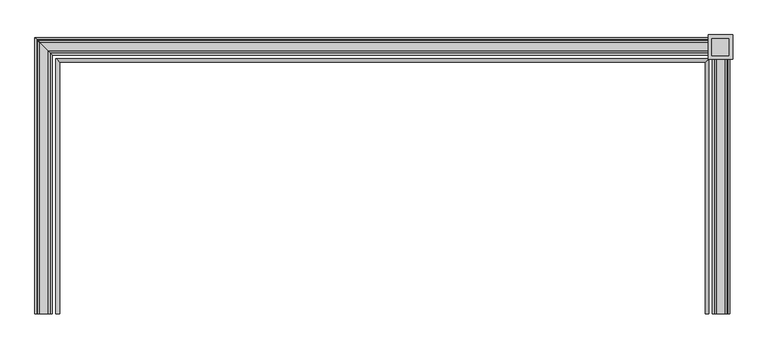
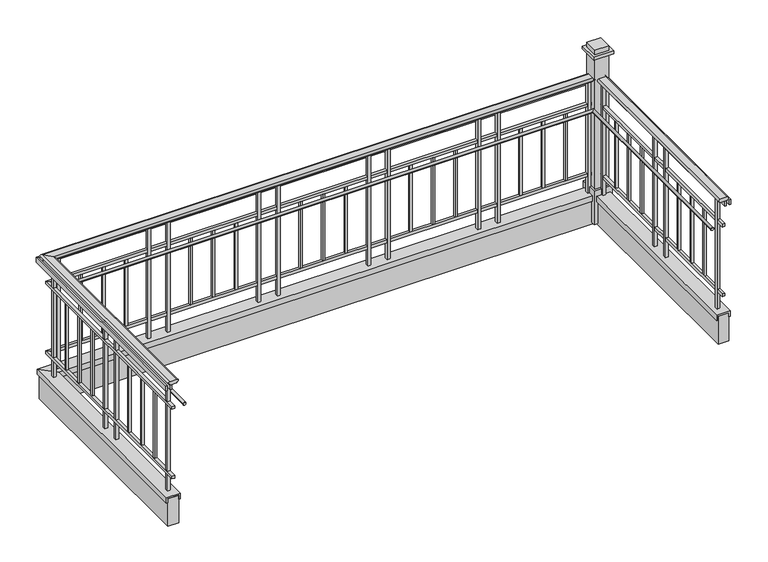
"""IFC4 building model written with IfcOpenShell, lengths in millimetres: railing geometry, Deco Type."""

import ifcopenshell
import ifcopenshell.guid

model = None  # the IFC model being written
_history = None  # IfcOwnerHistory: only IFC2X3 demands one
_inside = {}  # id of a spatial element -> (the spatial element, [elements in it])
_under = {}  # id of a project, library or spatial element -> (it, [spatial elements below it])
_declared = {}  # id of a project -> (the project, [libraries it declares])
_typed = {}  # id of a type object -> (the type object, [elements of that type])
_made_of = {}  # id of a material, layer set ... -> (it, [elements and type objects made of it])


def new_model(schema):
    """Start an empty IFC model of exactly this schema.

    Asked for "IFC4X3", IfcOpenShell would pick the latest addendum, in which some entities
    have other attributes; the version numbers below select the first issue.
    IFC2X3 requires an IfcOwnerHistory on every rooted entity: one is made here for all.
    """
    global model, _history
    if schema == "IFC4X3":
        model = ifcopenshell.file(schema_version=(4, 3, 0, 0))
    else:
        model = ifcopenshell.file(schema=schema)
    _inside.clear()
    _under.clear()
    _declared.clear()
    _typed.clear()
    _made_of.clear()
    _history = None
    if model.schema == "IFC2X3":
        org = make("IfcOrganization", Name="unknown")
        user = make(
            "IfcPersonAndOrganization",
            ThePerson=make("IfcPerson", FamilyName="unknown"),
            TheOrganization=org,
        )
        app = make(
            "IfcApplication",
            ApplicationDeveloper=org,
            Version="unknown",
            ApplicationFullName="unknown",
            ApplicationIdentifier="unknown",
        )
        _history = make(
            "IfcOwnerHistory",
            OwningUser=user,
            OwningApplication=app,
            ChangeAction="ADDED",
            CreationDate=0,
        )
    return model


def make(cls, **values):
    """One entity of the class cls with the attributes given. An attribute that is None is left unset."""
    return model.create_entity(
        cls, **{name: value for name, value in values.items() if value is not None}
    )


def rooted(cls, **values):
    """An entity with a GlobalId (a new one), such as an element, a storey or a relation."""
    return make(cls, GlobalId=ifcopenshell.guid.new(), OwnerHistory=_history, **values)


def si_unit(unit_type, name, prefix=None):
    """IfcSIUnit, for example si_unit("LENGTHUNIT", "METRE", prefix="MILLI")."""
    return make("IfcSIUnit", UnitType=unit_type, Prefix=prefix, Name=name)


def assignment(units):
    """IfcUnitAssignment: the units of a project."""
    return None if units is None else make("IfcUnitAssignment", Units=units)


def point(xyz):
    """IfcCartesianPoint."""
    return None if xyz is None else make("IfcCartesianPoint", Coordinates=xyz)


def direction(xyz):
    """IfcDirection."""
    return None if xyz is None else make("IfcDirection", DirectionRatios=xyz)


def frame(location, z_axis=None, x_axis=None):
    """IfcAxis2Placement3D, a coordinate frame: its origin and axes. An axis left out is left unset."""
    return make(
        "IfcAxis2Placement3D",
        Location=point(location),
        Axis=direction(z_axis),
        RefDirection=direction(x_axis),
    )


def origin():
    """The frame at (0, 0, 0) with its axes left unset."""
    return frame((0.0, 0.0, 0.0))


def place(relative_to, where):
    """IfcLocalPlacement: puts the frame where relative to a parent placement (None: the world)."""
    return make(
        "IfcLocalPlacement", PlacementRelTo=relative_to, RelativePlacement=where
    )


def context(
    kind, dimensions, precision=None, world=None, true_north=None, identifier=None
):
    """IfcGeometricRepresentationContext, for example the 3D "Model" context."""
    return make(
        "IfcGeometricRepresentationContext",
        ContextIdentifier=identifier,
        ContextType=kind,
        CoordinateSpaceDimension=dimensions,
        Precision=precision,
        WorldCoordinateSystem=world,
        TrueNorth=true_north,
    )


def project(units=None, contexts=None):
    """IfcProject with its units and contexts."""
    return rooted(
        "IfcProject",
        Name="project",
        RepresentationContexts=contexts,
        UnitsInContext=assignment(units),
    )


def spatial(cls, under=None, at=None, **own):
    """A site, building, storey or space (cls), placed at a placement, below another one or the project."""
    s = rooted(cls, ObjectPlacement=at, **own)
    if under is not None:
        _under.setdefault(under.id(), (under, []))[1].append(s)
    return s


def polyline(points):
    """IfcPolyline through the points."""
    return make("IfcPolyline", Points=[point(p) for p in points])


def circle_curve(where, radius):
    """IfcCircle in the frame where."""
    return make("IfcCircle", Position=where, Radius=radius)


def ellipse_curve(where, semi_axis1, semi_axis2):
    """IfcEllipse in the frame where."""
    return make(
        "IfcEllipse", Position=where, SemiAxis1=semi_axis1, SemiAxis2=semi_axis2
    )


def outline(outer, holes=None, kind="AREA"):
    """IfcArbitraryClosedProfileDef: a profile drawn as a closed curve; with holes, ...WithVoids."""
    if holes is None:
        return make("IfcArbitraryClosedProfileDef", ProfileType=kind, OuterCurve=outer)
    return make(
        "IfcArbitraryProfileDefWithVoids",
        ProfileType=kind,
        OuterCurve=outer,
        InnerCurves=holes,
    )


def extrude(swept, where, along, depth):
    """IfcExtrudedAreaSolid: the profile swept, set in the frame where, extruded along a direction by depth."""
    return make(
        "IfcExtrudedAreaSolid",
        SweptArea=swept,
        Position=where,
        ExtrudedDirection=direction(along),
        Depth=depth,
    )


def faces_of(points, faces, orient=None, outer=None):
    """IfcFace entities. A face is a list of loops; a loop is a list of indices into points, from 0.

    orient and outer hold one flag for each loop. By default every Orientation is true, the
    first loop of a face is its IfcFaceOuterBound and the others are IfcFaceBound.
    """
    made = []
    for i, loops in enumerate(faces):
        bounds = []
        for j, loop in enumerate(loops):
            is_outer = j == 0 if outer is None else outer[i][j]
            bounds.append(
                make(
                    "IfcFaceOuterBound" if is_outer else "IfcFaceBound",
                    Bound=make("IfcPolyLoop", Polygon=[points[k] for k in loop]),
                    Orientation=True if orient is None else orient[i][j],
                )
            )
        made.append(make("IfcFace", Bounds=bounds))
    return made


def faceted_brep(points, faces, orient=None, outer=None, voids=None):
    """IfcFacetedBrep: a solid bounded by flat faces; with voids (closed shells), ...WithVoids."""
    shared = [point(p) for p in points]
    hull = make("IfcClosedShell", CfsFaces=faces_of(shared, faces, orient, outer))
    if voids is None:
        return make("IfcFacetedBrep", Outer=hull)
    return make(
        "IfcFacetedBrepWithVoids",
        Outer=hull,
        Voids=[
            make(cls, CfsFaces=faces_of(shared, fs, o, b)) for cls, fs, o, b in voids
        ],
    )


def shape(context_of_items, identifier, shape_type, items):
    """IfcShapeRepresentation: the items that make up one representation, for example the "Body"."""
    return make(
        "IfcShapeRepresentation",
        ContextOfItems=context_of_items,
        RepresentationIdentifier=identifier,
        RepresentationType=shape_type,
        Items=items,
    )


def source(mapping_origin, context_of_items, identifier, shape_type, items):
    """IfcRepresentationMap: a shape defined once, which mapped items show again and again."""
    return make(
        "IfcRepresentationMap",
        MappingOrigin=mapping_origin,
        MappedRepresentation=shape(context_of_items, identifier, shape_type, items),
    )


def transform(
    local_origin,
    x_axis=None,
    y_axis=None,
    z_axis=None,
    scale=None,
    scale2=None,
    scale3=None,
    uniform=True,
):
    """IfcCartesianTransformationOperator3D, or its non-uniform kind. x_axis, y_axis, z_axis: its Axis1, 2, 3."""
    if uniform:
        return make(
            "IfcCartesianTransformationOperator3D",
            Axis1=direction(x_axis),
            Axis2=direction(y_axis),
            LocalOrigin=point(local_origin),
            Scale=scale,
            Axis3=direction(z_axis),
        )
    return make(
        "IfcCartesianTransformationOperator3DnonUniform",
        Axis1=direction(x_axis),
        Axis2=direction(y_axis),
        LocalOrigin=point(local_origin),
        Scale=scale,
        Axis3=direction(z_axis),
        Scale2=scale2,
        Scale3=scale3,
    )


def mapped(mapping_source, mapping_target):
    """IfcMappedItem: shows the shape of a source again, moved by a transform."""
    return make(
        "IfcMappedItem", MappingSource=mapping_source, MappingTarget=mapping_target
    )


def made_of(thing, what):
    """Note that an element or type object is made of a material, layer set ...; save() writes the relation."""
    if what is not None:
        _made_of.setdefault(what.id(), (what, []))[1].append(thing)
    return thing


def element(
    cls,
    number,
    at=None,
    inside=None,
    cuts=None,
    type_object=None,
    material=None,
    context=None,
    identifier="Body",
    shape_type=None,
    held_by="IfcProductDefinitionShape",
    body=None,
    shapes=None,
    **own,
):
    """One element of the class cls, such as IfcWall. Its Tag is "e" and its number.

    at: its placement. inside: the storey or other place that contains it. cuts: it is an
    opening in that element (IfcRelVoidsElement). A single representation is given by context,
    identifier, shape_type and body (its items); several are given by shapes. held_by: the class
    of the entity that holds the representations. save() writes the other relations.
    """
    e = rooted(cls, Tag="e%d" % number, ObjectPlacement=at, **own)
    if body is not None:
        shapes = [shape(context, identifier, shape_type, body)]
    if shapes is not None:
        e.Representation = make(held_by, Representations=shapes)
    if inside is not None:
        _inside.setdefault(inside.id(), (inside, []))[1].append(e)
    if cuts is not None:
        rooted(
            "IfcRelVoidsElement", RelatingBuildingElement=cuts, RelatedOpeningElement=e
        )
    if type_object is not None:
        _typed.setdefault(type_object.id(), (type_object, []))[1].append(e)
    return made_of(e, material)


def aggregate(whole, parts):
    """IfcRelAggregates: a whole, such as a stair, and the parts it consists of."""
    return rooted("IfcRelAggregates", RelatingObject=whole, RelatedObjects=parts)


def save(model, path):
    """Write the relations noted so far, then the file.

    IfcRelAggregates (storeys below a building ...), IfcRelContainedInSpatialStructure (elements
    in a storey), IfcRelDefinesByType, IfcRelAssociatesMaterial and IfcRelDeclares: one each for
    every whole, place, type object, material and project.
    """
    for whole, parts in _under.values():
        aggregate(whole, parts)
    for where, things in _inside.values():
        rooted(
            "IfcRelContainedInSpatialStructure",
            RelatedElements=things,
            RelatingStructure=where,
        )
    for kind, things in _typed.values():
        rooted("IfcRelDefinesByType", RelatedObjects=things, RelatingType=kind)
    for what, things in _made_of.values():
        rooted("IfcRelAssociatesMaterial", RelatedObjects=things, RelatingMaterial=what)
    for by, libraries in _declared.values():
        rooted("IfcRelDeclares", RelatingContext=by, RelatedDefinitions=libraries)
    model.write(path)


def plane_surface(at):
    """IfcPlane: the flat surface through the origin of the frame at, square to its z axis."""
    return make("IfcPlane", Position=at)


def cylinder_surface(at, radius):
    """IfcCylindricalSurface: all points at the distance radius from the z axis of the frame at."""
    return make("IfcCylindricalSurface", Position=at, Radius=radius)


def advanced_brep(points, edges, surfaces, faces):
    """IfcAdvancedBrep: a solid bounded by faces that lie on surfaces and meet in shared edges.

    An edge is (start, end): straight between two places in points (the first is 0);
    or (start, end, curve); or (start, end, curve, False) where it runs against its curve.
    A face is (place in surfaces, loops), or (place, loops, False) where it looks against
    its surface's normal. A loop lists edges by number (the first is 1), with a minus sign
    where the edge is run from its end to its start. The first loop is the outer one.
    """
    corners = [point(p) for p in points]
    vertices = [make("IfcVertexPoint", VertexGeometry=c) for c in corners]
    made = []
    for start, end, *more in edges:
        made.append(
            make(
                "IfcEdgeCurve",
                EdgeStart=vertices[start],
                EdgeEnd=vertices[end],
                EdgeGeometry=more[0] if more else make("IfcPolyline", Points=[corners[start], corners[end]]),
                SameSense=more[1] if len(more) > 1 else True,
            )
        )
    hull = []
    for where, loops, *sense in faces:
        bounds = []
        for j, loop in enumerate(loops):
            ring = [make("IfcOrientedEdge", EdgeElement=made[abs(k) - 1], Orientation=k > 0) for k in loop]
            bounds.append(
                make(
                    "IfcFaceOuterBound" if j == 0 else "IfcFaceBound",
                    Bound=make("IfcEdgeLoop", EdgeList=ring),
                    Orientation=True,
                )
            )
        hull.append(make("IfcAdvancedFace", Bounds=bounds, FaceSurface=surfaces[where], SameSense=sense[0] if sense else True))
    return make("IfcAdvancedBrep", Outer=make("IfcClosedShell", CfsFaces=hull))


def railing_526610e1(model_context):
    return source(origin(), model_context, "Body", "SolidModel", [
        advanced_brep(
        [(-11325.7002872, 11455.7088201, 7194.55), (-11389.0500398, 11455.7088201, 7194.55), (-11389.0500398, 11455.7088201, 7172.261629), (-11389.0500398, 11455.7088201, 7162.8), (-11325.7002872, 11455.7088201, 7162.8), (-11325.7002872, 11455.7088201, 7172.3248415), (-11325.7002872, 13298.9465675, 7172.3248415), (-11325.7002872, 13298.9465675, 7194.55), (-11325.7002872, 13298.9465675, 7162.8), (-11389.0500398, 13362.2963201, 7162.8), (-11389.0500398, 13362.2963201, 7172.261629), (-11389.0500398, 13362.2963201, 7194.55), (-6640.6872924, 13298.9465675, 7172.3248415), (-6640.6872924, 13298.9465675, 7194.55), (-6640.6872924, 13298.9465675, 7162.8), (-6577.3375398, 13362.2963201, 7162.8), (-6577.3375398, 13362.2963201, 7172.261629), (-6577.3375398, 13362.2963201, 7194.55), (-6640.6872924, 11455.7088201, 7194.55), (-6640.6872924, 11455.7088201, 7172.3248415), (-6640.6872924, 11455.7088201, 7162.8), (-6577.3375398, 11455.7088201, 7162.8), (-6577.3375398, 11455.7088201, 7172.261629), (-6577.3375398, 11455.7088201, 7194.55)],
        [
            (0, 1),
            (1, 2, circle_curve(frame((-11389.0500398, 11455.7088201, 7183.4058145), z_axis=(0.0, -1.0, 0.0), x_axis=(-1.0, 0.0, 0.0)), 11.1441855)),
            (2, 3),
            (3, 4),
            (4, 5),
            (5, 0, circle_curve(frame((-11325.7002872, 11455.7088201, 7183.4374207), z_axis=(0.0, -1.0, 0.0), x_axis=(-1.0, 0.0, 0.0)), 11.1125793)),
            (5, 6),
            (6, 7, ellipse_curve(frame((-11325.7002872, 13298.9465675, 7183.4374207), z_axis=(-0.7071067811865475, -0.7071067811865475, 0.0), x_axis=(0.7071067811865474, -0.7071067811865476, 0.0)), 15.7155603, 11.1125793)),
            (7, 0),
            (4, 8),
            (8, 6),
            (3, 9),
            (9, 8),
            (2, 10),
            (10, 9),
            (1, 11),
            (11, 10, ellipse_curve(frame((-11389.0500398, 13362.2963201, 7183.4058145), z_axis=(-0.7071067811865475, -0.7071067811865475, 0.0), x_axis=(0.7071067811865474, -0.7071067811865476, 0.0)), 15.7602583, 11.1441855)),
            (7, 11),
            (6, 12),
            (12, 13, ellipse_curve(frame((-6640.6872924, 13298.9465675, 7183.4374207), z_axis=(-0.7071067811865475, 0.7071067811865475, 0.0), x_axis=(-0.7071067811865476, -0.7071067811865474, 0.0)), 15.7155603, 11.1125793)),
            (13, 7),
            (8, 14),
            (14, 12),
            (9, 15),
            (15, 14),
            (10, 16),
            (16, 15),
            (11, 17),
            (17, 16, ellipse_curve(frame((-6577.3375398, 13362.2963201, 7183.4058145), z_axis=(-0.7071067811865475, 0.7071067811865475, 0.0), x_axis=(-0.7071067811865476, -0.7071067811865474, 0.0)), 15.7602583, 11.1441855)),
            (13, 17),
            (18, 19, circle_curve(frame((-6640.6872924, 11455.7088201, 7183.4374207), z_axis=(0.0, -1.0, 0.0), x_axis=(1.0, 0.0, 0.0)), 11.1125793)),
            (19, 20),
            (20, 21),
            (21, 22),
            (22, 23, circle_curve(frame((-6577.3375398, 11455.7088201, 7183.4058145), z_axis=(0.0, -1.0, 0.0), x_axis=(1.0, 0.0, 0.0)), 11.1441855)),
            (23, 18),
            (12, 19),
            (18, 13),
            (14, 20),
            (15, 21),
            (16, 22),
            (17, 23),
        ],
        [
            plane_surface(frame((-11357.3000398, 11455.7088201, 7162.8), z_axis=(0.0, -1.0, 0.0), x_axis=(0.0, 0.0, 1.0))),
            cylinder_surface(frame((-11325.7002872, 11455.7088201, 7183.4374207), z_axis=(0.0, -1.0, 0.0), x_axis=(-1.0, 0.0, 0.0)), 11.1125793),
            plane_surface(frame((-11325.7002872, 11455.7088201, 7162.8), z_axis=(1.0, 0.0, 0.0), x_axis=(0.0, 1.0, 0.0))),
            plane_surface(frame((-11389.0500398, 11455.7088201, 7162.8), z_axis=(0.0, 0.0, -1.0), x_axis=(0.0, 1.0, 0.0))),
            plane_surface(frame((-11389.0500398, 11455.7088201, 7172.261629), z_axis=(-1.0, 0.0, 0.0), x_axis=(0.0, 1.0, 0.0))),
            cylinder_surface(frame((-11389.0500398, 11455.7088201, 7183.4058145), z_axis=(0.0, -1.0, 0.0), x_axis=(-1.0, 0.0, 0.0)), 11.1441855),
            plane_surface(frame((-11325.7002872, 11455.7088201, 7194.55), z_axis=(0.0, 0.0, 1.0), x_axis=(0.0, 1.0, 0.0))),
            cylinder_surface(frame((-11357.3000398, 13298.9465675, 7183.4374207), z_axis=(-1.0, 0.0, 0.0), x_axis=(0.0, 1.0, 0.0)), 11.1125793),
            plane_surface(frame((-11325.7002872, 13298.9465675, 7162.8), z_axis=(0.0, -1.0, 0.0), x_axis=(1.0, 0.0, 0.0))),
            plane_surface(frame((-11389.0500398, 13362.2963201, 7162.8), z_axis=(0.0, 0.0, -1.0), x_axis=(1.0, 0.0, 0.0))),
            plane_surface(frame((-11389.0500398, 13362.2963201, 7172.261629), z_axis=(0.0, 1.0, 0.0), x_axis=(1.0, 0.0, 0.0))),
            cylinder_surface(frame((-11357.3000398, 13362.2963201, 7183.4058145), z_axis=(-1.0, 0.0, 0.0), x_axis=(0.0, 1.0, 0.0)), 11.1441855),
            plane_surface(frame((-11325.7002872, 13298.9465675, 7194.55), z_axis=(0.0, 0.0, 1.0), x_axis=(1.0, 0.0, 0.0))),
            plane_surface(frame((-6609.0875398, 11455.7088201, 7162.8), z_axis=(0.0, -1.0, 0.0), x_axis=(0.0, 0.0, -1.0))),
            cylinder_surface(frame((-6640.6872924, 13330.5463201, 7183.4374207), z_axis=(0.0, 1.0, 0.0), x_axis=(1.0, 0.0, 0.0)), 11.1125793),
            plane_surface(frame((-6640.6872924, 13298.9465675, 7162.8), z_axis=(-1.0, 0.0, 0.0), x_axis=(0.0, -1.0, 0.0))),
            plane_surface(frame((-6577.3375398, 13362.2963201, 7162.8), z_axis=(0.0, 0.0, -1.0), x_axis=(0.0, -1.0, 0.0))),
            plane_surface(frame((-6577.3375398, 13362.2963201, 7172.261629), z_axis=(1.0, 0.0, 0.0), x_axis=(0.0, -1.0, 0.0))),
            cylinder_surface(frame((-6577.3375398, 13330.5463201, 7183.4058145), z_axis=(0.0, 1.0, 0.0), x_axis=(1.0, 0.0, 0.0)), 11.1441855),
            plane_surface(frame((-6640.6872924, 13298.9465675, 7194.55), z_axis=(0.0, 0.0, 1.0), x_axis=(0.0, -1.0, 0.0))),
        ],
        [
            (0, [[1, 2, 3, 4, 5, 6]]),
            (1, [[-6, 7, 8, 9]]),
            (2, [[-5, 10, 11, -7]]),
            (3, [[-4, 12, 13, -10]]),
            (4, [[-3, 14, 15, -12]]),
            (5, [[-2, 16, 17, -14]]),
            (6, [[-1, -9, 18, -16]]),
            (7, [[-8, 19, 20, 21]]),
            (8, [[-11, 22, 23, -19]]),
            (9, [[-13, 24, 25, -22]]),
            (10, [[-15, 26, 27, -24]]),
            (11, [[-17, 28, 29, -26]]),
            (12, [[-18, -21, 30, -28]]),
            (13, [[31, 32, 33, 34, 35, 36]]),
            (14, [[-20, 37, -31, 38]]),
            (15, [[-23, 39, -32, -37]]),
            (16, [[-25, 40, -33, -39]]),
            (17, [[-27, 41, -34, -40]]),
            (18, [[-29, 42, -35, -41]]),
            (19, [[-30, -38, -36, -42]]),
        ],
    ),
        faceted_brep([(-11382.7751635, 11455.7088201, 7162.8), (-11382.7751635, 11455.7088201, 7118.35), (-11370.0751635, 11455.7088201, 7118.35), (-11370.0751635, 11455.7088201, 7162.8), (-11370.0751635, 13343.3214438, 7162.8), (-11382.7751635, 13356.0214438, 7162.8), (-11370.0751635, 13343.3214438, 7118.35), (-11382.7751635, 13356.0214438, 7118.35), (-6596.3124161, 13343.3214438, 7162.8), (-6583.6124161, 13356.0214438, 7162.8), (-6596.3124161, 13343.3214438, 7118.35), (-6583.6124161, 13356.0214438, 7118.35), (-6583.6124161, 11455.7088201, 7162.8), (-6596.3124161, 11455.7088201, 7162.8), (-6596.3124161, 11455.7088201, 7118.35), (-6583.6124161, 11455.7088201, 7118.35)], [[[0, 1, 2, 3]], [[0, 3, 4, 5]], [[3, 2, 6, 4]], [[2, 1, 7, 6]], [[1, 0, 5, 7]], [[5, 4, 8, 9]], [[4, 6, 10, 8]], [[6, 7, 11, 10]], [[7, 5, 9, 11]], [[12, 13, 14, 15]], [[9, 8, 13, 12]], [[8, 10, 14, 13]], [[10, 11, 15, 14]], [[11, 9, 12, 15]]]),
        faceted_brep([(-11420.8751635, 11455.7088201, 7162.8), (-11420.8751635, 11455.7088201, 7118.35), (-11408.1751635, 11455.7088201, 7118.35), (-11408.1751635, 11455.7088201, 7162.8), (-11408.1751635, 13381.4214438, 7162.8), (-11420.8751635, 13394.1214438, 7162.8), (-11408.1751635, 13381.4214438, 7118.35), (-11420.8751635, 13394.1214438, 7118.35), (-6558.2124161, 13381.4214438, 7162.8), (-6545.5124161, 13394.1214438, 7162.8), (-6558.2124161, 13381.4214438, 7118.35), (-6545.5124161, 13394.1214438, 7118.35), (-6545.5124161, 11455.7088201, 7162.8), (-6558.2124161, 11455.7088201, 7162.8), (-6558.2124161, 11455.7088201, 7118.35), (-6545.5124161, 11455.7088201, 7118.35)], [[[0, 1, 2, 3]], [[0, 3, 4, 5]], [[3, 2, 6, 4]], [[2, 1, 7, 6]], [[1, 0, 5, 7]], [[5, 4, 8, 9]], [[4, 6, 10, 8]], [[6, 7, 11, 10]], [[7, 5, 9, 11]], [[12, 13, 14, 15]], [[9, 8, 13, 12]], [[8, 10, 14, 13]], [[10, 11, 15, 14]], [[11, 9, 12, 15]]]),
        faceted_brep([(-11370.0000398, 11455.7088201, 6959.6), (-11370.0000398, 11455.7088201, 6934.2), (-11344.6000398, 11455.7088201, 6934.2), (-11344.6000398, 11455.7088201, 6959.6), (-11344.6000398, 13317.8463201, 6959.6), (-11370.0000398, 13343.2463201, 6959.6), (-11344.6000398, 13317.8463201, 6934.2), (-11370.0000398, 13343.2463201, 6934.2), (-6621.7875398, 13317.8463201, 6959.6), (-6596.3875398, 13343.2463201, 6959.6), (-6621.7875398, 13317.8463201, 6934.2), (-6596.3875398, 13343.2463201, 6934.2), (-6596.3875398, 11455.7088201, 6959.6), (-6621.7875398, 11455.7088201, 6959.6), (-6621.7875398, 11455.7088201, 6934.2), (-6596.3875398, 11455.7088201, 6934.2)], [[[0, 1, 2, 3]], [[0, 3, 4, 5]], [[3, 2, 6, 4]], [[2, 1, 7, 6]], [[1, 0, 5, 7]], [[5, 4, 8, 9]], [[4, 6, 10, 8]], [[6, 7, 11, 10]], [[7, 5, 9, 11]], [[12, 13, 14, 15]], [[9, 8, 13, 12]], [[8, 10, 14, 13]], [[10, 11, 15, 14]], [[11, 9, 12, 15]]]),
        advanced_brep(
        [(-11247.7625398, 11455.7088201, 6946.9), (-11273.1625398, 11455.7088201, 6946.9), (-11273.1625398, 13246.4088201, 6946.9), (-11247.7625398, 13221.0088201, 6946.9), (-6693.2250398, 13246.4088201, 6946.9), (-6718.6250398, 13221.0088201, 6946.9), (-6718.6250398, 11455.7088201, 6946.9), (-6693.2250398, 11455.7088201, 6946.9)],
        [
            (0, 1, circle_curve(frame((-11260.4625398, 11455.7088201, 6946.9), z_axis=(0.0, -1.0, 0.0), x_axis=(-1.0, 0.0, 0.0)), 12.7)),
            (1, 0, circle_curve(frame((-11260.4625398, 11455.7088201, 6946.9), z_axis=(0.0, -1.0, 0.0), x_axis=(-1.0, 0.0, 0.0)), 12.7)),
            (1, 2),
            (2, 3, ellipse_curve(frame((-11260.4625398, 13233.7088201, 6946.9), z_axis=(-0.7071067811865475, -0.7071067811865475, 0.0), x_axis=(0.7071067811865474, -0.7071067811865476, 0.0)), 17.9605122, 12.7)),
            (3, 0),
            (3, 2, ellipse_curve(frame((-11260.4625398, 13233.7088201, 6946.9), z_axis=(-0.7071067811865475, -0.7071067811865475, 0.0), x_axis=(0.7071067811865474, -0.7071067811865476, 0.0)), 17.9605122, 12.7)),
            (2, 4),
            (4, 5, ellipse_curve(frame((-6705.9250398, 13233.7088201, 6946.9), z_axis=(-0.7071067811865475, 0.7071067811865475, 0.0), x_axis=(-0.7071067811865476, -0.7071067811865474, 0.0)), 17.9605122, 12.7)),
            (5, 3),
            (5, 4, ellipse_curve(frame((-6705.9250398, 13233.7088201, 6946.9), z_axis=(-0.7071067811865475, 0.7071067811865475, 0.0), x_axis=(-0.7071067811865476, -0.7071067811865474, 0.0)), 17.9605122, 12.7)),
            (6, 7, circle_curve(frame((-6705.9250398, 11455.7088201, 6946.9), z_axis=(0.0, -1.0, 0.0), x_axis=(1.0, 0.0, 0.0)), 12.7)),
            (7, 6, circle_curve(frame((-6705.9250398, 11455.7088201, 6946.9), z_axis=(0.0, -1.0, 0.0), x_axis=(1.0, 0.0, 0.0)), 12.7)),
            (4, 7),
            (6, 5),
        ],
        [
            plane_surface(frame((-11260.4625398, 11455.7088201, 6946.9), z_axis=(0.0, -1.0, 0.0), x_axis=(0.0, 0.0, 1.0))),
            cylinder_surface(frame((-11260.4625398, 11455.7088201, 6946.9), z_axis=(0.0, -1.0, 0.0), x_axis=(-1.0, 0.0, 0.0)), 12.7),
            cylinder_surface(frame((-11260.4625398, 13233.7088201, 6946.9), z_axis=(-1.0, 0.0, 0.0), x_axis=(0.0, 1.0, 0.0)), 12.7),
            plane_surface(frame((-6705.9250398, 11455.7088201, 6946.9), z_axis=(0.0, -1.0, 0.0), x_axis=(0.0, 0.0, -1.0))),
            cylinder_surface(frame((-6705.9250398, 13233.7088201, 6946.9), z_axis=(0.0, 1.0, 0.0), x_axis=(1.0, 0.0, 0.0)), 12.7),
        ],
        [
            (0, [[1, 2]]),
            (1, [[-2, 3, 4, 5]]),
            (1, [[-1, -5, 6, -3]]),
            (2, [[-4, 7, 8, 9]]),
            (2, [[-6, -9, 10, -7]]),
            (3, [[11, 12]]),
            (4, [[-8, 13, -11, 14]]),
            (4, [[-10, -14, -12, -13]]),
        ],
    ),
        faceted_brep([(-11370.0000398, 11455.7088201, 6324.6), (-11370.0000398, 11455.7088201, 6299.2), (-11344.6000398, 11455.7088201, 6299.2), (-11344.6000398, 11455.7088201, 6324.6), (-11344.6000398, 13317.8463201, 6324.6), (-11370.0000398, 13343.2463201, 6324.6), (-11344.6000398, 13317.8463201, 6299.2), (-11370.0000398, 13343.2463201, 6299.2), (-6621.7875398, 13317.8463201, 6324.6), (-6596.3875398, 13343.2463201, 6324.6), (-6621.7875398, 13317.8463201, 6299.2), (-6596.3875398, 13343.2463201, 6299.2), (-6596.3875398, 11455.7088201, 6324.6), (-6621.7875398, 11455.7088201, 6324.6), (-6621.7875398, 11455.7088201, 6299.2), (-6596.3875398, 11455.7088201, 6299.2)], [[[0, 1, 2, 3]], [[0, 3, 4, 5]], [[3, 2, 6, 4]], [[2, 1, 7, 6]], [[1, 0, 5, 7]], [[5, 4, 8, 9]], [[4, 6, 10, 8]], [[6, 7, 11, 10]], [[7, 5, 9, 11]], [[12, 13, 14, 15]], [[9, 8, 13, 12]], [[8, 10, 14, 13]], [[10, 11, 15, 14]], [[11, 9, 12, 15]]]),
        faceted_brep([(-11298.6376635, 11455.7088201, 6145.0362864), (-11416.1126635, 11455.7088201, 6145.0362864), (-11416.1126635, 11455.7088201, 6096.0), (-11403.4126635, 11455.7088201, 6096.0), (-11403.4126635, 11455.7088201, 6132.3362864), (-11311.3376635, 11455.7088201, 6132.3362864), (-11311.3376635, 11455.7088201, 6096.0), (-11298.6376635, 11455.7088201, 6096.0), (-11298.6376635, 13271.8839438, 6096.0), (-11298.6376635, 13271.8839438, 6145.0362864), (-11311.3376635, 13284.5839438, 6096.0), (-11311.3376635, 13284.5839438, 6132.3362864), (-11403.4126635, 13376.6589438, 6132.3362864), (-11403.4126635, 13376.6589438, 6096.0), (-11416.1126635, 13389.3589438, 6096.0), (-11416.1126635, 13389.3589438, 6145.0362864), (-6667.7499161, 13271.8839438, 6096.0), (-6667.7499161, 13271.8839438, 6145.0362864), (-6655.0499161, 13284.5839438, 6096.0), (-6655.0499161, 13284.5839438, 6132.3362864), (-6562.9749161, 13376.6589438, 6132.3362864), (-6562.9749161, 13376.6589438, 6096.0), (-6550.2749161, 13389.3589438, 6096.0), (-6550.2749161, 13389.3589438, 6145.0362864), (-6667.7499161, 11455.7088201, 6145.0362864), (-6667.7499161, 11455.7088201, 6096.0), (-6655.0499161, 11455.7088201, 6096.0), (-6655.0499161, 11455.7088201, 6132.3362864), (-6562.9749161, 11455.7088201, 6132.3362864), (-6562.9749161, 11455.7088201, 6096.0), (-6550.2749161, 11455.7088201, 6096.0), (-6550.2749161, 11455.7088201, 6145.0362864)], [[[0, 1, 2, 3, 4, 5, 6, 7]], [[0, 7, 8, 9]], [[7, 6, 10, 8]], [[6, 5, 11, 10]], [[5, 4, 12, 11]], [[4, 3, 13, 12]], [[3, 2, 14, 13]], [[2, 1, 15, 14]], [[1, 0, 9, 15]], [[9, 8, 16, 17]], [[8, 10, 18, 16]], [[10, 11, 19, 18]], [[11, 12, 20, 19]], [[12, 13, 21, 20]], [[13, 14, 22, 21]], [[14, 15, 23, 22]], [[15, 9, 17, 23]], [[24, 25, 26, 27, 28, 29, 30, 31]], [[17, 16, 25, 24]], [[16, 18, 26, 25]], [[18, 19, 27, 26]], [[19, 20, 28, 27]], [[20, 21, 29, 28]], [[21, 22, 30, 29]], [[22, 23, 31, 30]], [[23, 17, 24, 31]]]),
        faceted_brep([(-11311.3376635, 11455.7088201, 6132.3362864), (-11403.4126635, 11455.7088201, 6132.3362864), (-11403.4126635, 11455.7088201, 5878.3362864), (-11311.3376635, 11455.7088201, 5878.3362864), (-11311.3376635, 13284.5839438, 5878.3362864), (-11311.3376635, 13284.5839438, 6132.3362864), (-11403.4126635, 13376.6589438, 5878.3362864), (-11403.4126635, 13376.6589438, 6132.3362864), (-6655.0499161, 13284.5839438, 5878.3362864), (-6655.0499161, 13284.5839438, 6132.3362864), (-6562.9749161, 13376.6589438, 5878.3362864), (-6562.9749161, 13376.6589438, 6132.3362864), (-6655.0499161, 11455.7088201, 6132.3362864), (-6655.0499161, 11455.7088201, 5878.3362864), (-6562.9749161, 11455.7088201, 5878.3362864), (-6562.9749161, 11455.7088201, 6132.3362864)], [[[0, 1, 2, 3]], [[0, 3, 4, 5]], [[3, 2, 6, 4]], [[2, 1, 7, 6]], [[1, 0, 5, 7]], [[5, 4, 8, 9]], [[4, 6, 10, 8]], [[6, 7, 11, 10]], [[7, 5, 9, 11]], [[12, 13, 14, 15]], [[9, 8, 13, 12]], [[8, 10, 14, 13]], [[10, 11, 15, 14]], [[11, 9, 12, 15]]]),
        extrude(outline(polyline([(-6599.1656648, 11550.9996749), (-6599.1656648, 11525.5996749), (-6624.5656648, 11525.5996749), (-6624.5656648, 11550.9996749), (-6599.1656648, 11550.9996749)])), frame((0.0, 0.0, 6145.0362864), z_axis=(0.0, 0.0, 1.0), x_axis=(1.0, 0.0, 0.0)), (0.0, 0.0, 1.0), 1017.7637136),
        extrude(outline(polyline([(-6602.3406648, 11740.5366693), (-6602.3406648, 11721.4866693), (-6621.3906648, 11721.4866693), (-6621.3906648, 11740.5366693), (-6602.3406648, 11740.5366693)])), frame((0.0, 0.0, 6324.6), z_axis=(0.0, 0.0, 1.0), x_axis=(1.0, 0.0, 0.0)), (0.0, 0.0, 1.0), 609.6),
        extrude(outline(polyline([(-6602.3406648, 11933.2486638), (-6602.3406648, 11914.1986638), (-6621.3906648, 11914.1986638), (-6621.3906648, 11933.2486638), (-6602.3406648, 11933.2486638)])), frame((0.0, 0.0, 6324.6), z_axis=(0.0, 0.0, 1.0), x_axis=(1.0, 0.0, 0.0)), (0.0, 0.0, 1.0), 609.6),
        extrude(outline(polyline([(-6602.3406648, 12125.9606583), (-6602.3406648, 12106.9106583), (-6621.3906648, 12106.9106583), (-6621.3906648, 12125.9606583), (-6602.3406648, 12125.9606583)])), frame((0.0, 0.0, 6324.6), z_axis=(0.0, 0.0, 1.0), x_axis=(1.0, 0.0, 0.0)), (0.0, 0.0, 1.0), 609.6),
        extrude(outline(polyline([(-6599.1656648, 12321.8476528), (-6599.1656648, 12296.4476528), (-6624.5656648, 12296.4476528), (-6624.5656648, 12321.8476528), (-6599.1656648, 12321.8476528)])), frame((0.0, 0.0, 6145.0362864), z_axis=(0.0, 0.0, 1.0), x_axis=(1.0, 0.0, 0.0)), (0.0, 0.0, 1.0), 1017.7637136),
        extrude(outline(polyline([(-6599.1656648, 12487.0293624), (-6599.1656648, 12461.6293624), (-6624.5656648, 12461.6293624), (-6624.5656648, 12487.0293624), (-6599.1656648, 12487.0293624)])), frame((0.0, 0.0, 6145.0362864), z_axis=(0.0, 0.0, 1.0), x_axis=(1.0, 0.0, 0.0)), (0.0, 0.0, 1.0), 1017.7637136),
        extrude(outline(polyline([(-6602.3406648, 12676.5663568), (-6602.3406648, 12657.5163568), (-6621.3906648, 12657.5163568), (-6621.3906648, 12676.5663568), (-6602.3406648, 12676.5663568)])), frame((0.0, 0.0, 6324.6), z_axis=(0.0, 0.0, 1.0), x_axis=(1.0, 0.0, 0.0)), (0.0, 0.0, 1.0), 609.6),
        extrude(outline(polyline([(-6602.3406648, 12869.2783513), (-6602.3406648, 12850.2283513), (-6621.3906648, 12850.2283513), (-6621.3906648, 12869.2783513), (-6602.3406648, 12869.2783513)])), frame((0.0, 0.0, 6324.6), z_axis=(0.0, 0.0, 1.0), x_axis=(1.0, 0.0, 0.0)), (0.0, 0.0, 1.0), 609.6),
        extrude(outline(polyline([(-6602.3406648, 13061.9903458), (-6602.3406648, 13042.9403458), (-6621.3906648, 13042.9403458), (-6621.3906648, 13061.9903458), (-6602.3406648, 13061.9903458)])), frame((0.0, 0.0, 6324.6), z_axis=(0.0, 0.0, 1.0), x_axis=(1.0, 0.0, 0.0)), (0.0, 0.0, 1.0), 609.6),
        extrude(outline(polyline([(-6599.1656648, 13257.8773403), (-6599.1656648, 13232.4773403), (-6624.5656648, 13232.4773403), (-6624.5656648, 13257.8773403), (-6599.1656648, 13257.8773403)])), frame((0.0, 0.0, 6145.0362864), z_axis=(0.0, 0.0, 1.0), x_axis=(1.0, 0.0, 0.0)), (0.0, 0.0, 1.0), 1017.7637136),
        extrude(outline(polyline([(-6708.2595986, 13340.4681951), (-6682.8595986, 13340.4681951), (-6682.8595986, 13315.0681951), (-6708.2595986, 13315.0681951), (-6708.2595986, 13340.4681951)])), frame((0.0, 0.0, 6145.0362864), z_axis=(0.0, 0.0, 1.0), x_axis=(1.0, 0.0, 0.0)), (0.0, 0.0, 1.0), 1017.7637136),
        extrude(outline(polyline([(-6900.3704442, 13337.2931951), (-6881.3204442, 13337.2931951), (-6881.3204442, 13318.2431951), (-6900.3704442, 13318.2431951), (-6900.3704442, 13337.2931951)])), frame((0.0, 0.0, 6324.6), z_axis=(0.0, 0.0, 1.0), x_axis=(1.0, 0.0, 0.0)), (0.0, 0.0, 1.0), 609.6),
        extrude(outline(polyline([(-7095.6562898, 13337.2931951), (-7076.6062898, 13337.2931951), (-7076.6062898, 13318.2431951), (-7095.6562898, 13318.2431951), (-7095.6562898, 13337.2931951)])), frame((0.0, 0.0, 6324.6), z_axis=(0.0, 0.0, 1.0), x_axis=(1.0, 0.0, 0.0)), (0.0, 0.0, 1.0), 609.6),
        extrude(outline(polyline([(-7290.9421354, 13337.2931951), (-7271.8921354, 13337.2931951), (-7271.8921354, 13318.2431951), (-7290.9421354, 13318.2431951), (-7290.9421354, 13337.2931951)])), frame((0.0, 0.0, 6324.6), z_axis=(0.0, 0.0, 1.0), x_axis=(1.0, 0.0, 0.0)), (0.0, 0.0, 1.0), 609.6),
        extrude(outline(polyline([(-7489.402981, 13340.4681951), (-7464.002981, 13340.4681951), (-7464.002981, 13315.0681951), (-7489.402981, 13315.0681951), (-7489.402981, 13340.4681951)])), frame((0.0, 0.0, 6145.0362864), z_axis=(0.0, 0.0, 1.0), x_axis=(1.0, 0.0, 0.0)), (0.0, 0.0, 1.0), 1017.7637136),
        extrude(outline(polyline([(-7656.7908486, 13340.4681951), (-7631.3908486, 13340.4681951), (-7631.3908486, 13315.0681951), (-7656.7908486, 13315.0681951), (-7656.7908486, 13340.4681951)])), frame((0.0, 0.0, 6145.0362864), z_axis=(0.0, 0.0, 1.0), x_axis=(1.0, 0.0, 0.0)), (0.0, 0.0, 1.0), 1017.7637136),
        extrude(outline(polyline([(-7848.9016942, 13337.2931951), (-7829.8516942, 13337.2931951), (-7829.8516942, 13318.2431951), (-7848.9016942, 13318.2431951), (-7848.9016942, 13337.2931951)])), frame((0.0, 0.0, 6324.6), z_axis=(0.0, 0.0, 1.0), x_axis=(1.0, 0.0, 0.0)), (0.0, 0.0, 1.0), 609.6),
        extrude(outline(polyline([(-8044.1875398, 13337.2931951), (-8025.1375398, 13337.2931951), (-8025.1375398, 13318.2431951), (-8044.1875398, 13318.2431951), (-8044.1875398, 13337.2931951)])), frame((0.0, 0.0, 6324.6), z_axis=(0.0, 0.0, 1.0), x_axis=(1.0, 0.0, 0.0)), (0.0, 0.0, 1.0), 609.6),
        extrude(outline(polyline([(-8239.4733854, 13337.2931951), (-8220.4233854, 13337.2931951), (-8220.4233854, 13318.2431951), (-8239.4733854, 13318.2431951), (-8239.4733854, 13337.2931951)])), frame((0.0, 0.0, 6324.6), z_axis=(0.0, 0.0, 1.0), x_axis=(1.0, 0.0, 0.0)), (0.0, 0.0, 1.0), 609.6),
        extrude(outline(polyline([(-8437.934231, 13340.4681951), (-8412.534231, 13340.4681951), (-8412.534231, 13315.0681951), (-8437.934231, 13315.0681951), (-8437.934231, 13340.4681951)])), frame((0.0, 0.0, 6145.0362864), z_axis=(0.0, 0.0, 1.0), x_axis=(1.0, 0.0, 0.0)), (0.0, 0.0, 1.0), 1017.7637136),
        extrude(outline(polyline([(-8605.3220986, 13340.4681951), (-8579.9220986, 13340.4681951), (-8579.9220986, 13315.0681951), (-8605.3220986, 13315.0681951), (-8605.3220986, 13340.4681951)])), frame((0.0, 0.0, 6145.0362864), z_axis=(0.0, 0.0, 1.0), x_axis=(1.0, 0.0, 0.0)), (0.0, 0.0, 1.0), 1017.7637136),
        extrude(outline(polyline([(-8797.4329442, 13337.2931951), (-8778.3829442, 13337.2931951), (-8778.3829442, 13318.2431951), (-8797.4329442, 13318.2431951), (-8797.4329442, 13337.2931951)])), frame((0.0, 0.0, 6324.6), z_axis=(0.0, 0.0, 1.0), x_axis=(1.0, 0.0, 0.0)), (0.0, 0.0, 1.0), 609.6),
        extrude(outline(polyline([(-8992.7187898, 13337.2931951), (-8973.6687898, 13337.2931951), (-8973.6687898, 13318.2431951), (-8992.7187898, 13318.2431951), (-8992.7187898, 13337.2931951)])), frame((0.0, 0.0, 6324.6), z_axis=(0.0, 0.0, 1.0), x_axis=(1.0, 0.0, 0.0)), (0.0, 0.0, 1.0), 609.6),
        extrude(outline(polyline([(-9188.0046354, 13337.2931951), (-9168.9546354, 13337.2931951), (-9168.9546354, 13318.2431951), (-9188.0046354, 13318.2431951), (-9188.0046354, 13337.2931951)])), frame((0.0, 0.0, 6324.6), z_axis=(0.0, 0.0, 1.0), x_axis=(1.0, 0.0, 0.0)), (0.0, 0.0, 1.0), 609.6),
        extrude(outline(polyline([(-9386.465481, 13340.4681951), (-9361.065481, 13340.4681951), (-9361.065481, 13315.0681951), (-9386.465481, 13315.0681951), (-9386.465481, 13340.4681951)])), frame((0.0, 0.0, 6145.0362864), z_axis=(0.0, 0.0, 1.0), x_axis=(1.0, 0.0, 0.0)), (0.0, 0.0, 1.0), 1017.7637136),
        extrude(outline(polyline([(-9553.8533486, 13340.4681951), (-9528.4533486, 13340.4681951), (-9528.4533486, 13315.0681951), (-9553.8533486, 13315.0681951), (-9553.8533486, 13340.4681951)])), frame((0.0, 0.0, 6145.0362864), z_axis=(0.0, 0.0, 1.0), x_axis=(1.0, 0.0, 0.0)), (0.0, 0.0, 1.0), 1017.7637136),
        extrude(outline(polyline([(-9745.9641942, 13337.2931951), (-9726.9141942, 13337.2931951), (-9726.9141942, 13318.2431951), (-9745.9641942, 13318.2431951), (-9745.9641942, 13337.2931951)])), frame((0.0, 0.0, 6324.6), z_axis=(0.0, 0.0, 1.0), x_axis=(1.0, 0.0, 0.0)), (0.0, 0.0, 1.0), 609.6),
        extrude(outline(polyline([(-9941.2500398, 13337.2931951), (-9922.2000398, 13337.2931951), (-9922.2000398, 13318.2431951), (-9941.2500398, 13318.2431951), (-9941.2500398, 13337.2931951)])), frame((0.0, 0.0, 6324.6), z_axis=(0.0, 0.0, 1.0), x_axis=(1.0, 0.0, 0.0)), (0.0, 0.0, 1.0), 609.6),
        extrude(outline(polyline([(-10136.5358854, 13337.2931951), (-10117.4858854, 13337.2931951), (-10117.4858854, 13318.2431951), (-10136.5358854, 13318.2431951), (-10136.5358854, 13337.2931951)])), frame((0.0, 0.0, 6324.6), z_axis=(0.0, 0.0, 1.0), x_axis=(1.0, 0.0, 0.0)), (0.0, 0.0, 1.0), 609.6),
        extrude(outline(polyline([(-10334.996731, 13340.4681951), (-10309.596731, 13340.4681951), (-10309.596731, 13315.0681951), (-10334.996731, 13315.0681951), (-10334.996731, 13340.4681951)])), frame((0.0, 0.0, 6145.0362864), z_axis=(0.0, 0.0, 1.0), x_axis=(1.0, 0.0, 0.0)), (0.0, 0.0, 1.0), 1017.7637136),
        extrude(outline(polyline([(-10502.3845986, 13340.4681951), (-10476.9845986, 13340.4681951), (-10476.9845986, 13315.0681951), (-10502.3845986, 13315.0681951), (-10502.3845986, 13340.4681951)])), frame((0.0, 0.0, 6145.0362864), z_axis=(0.0, 0.0, 1.0), x_axis=(1.0, 0.0, 0.0)), (0.0, 0.0, 1.0), 1017.7637136),
        extrude(outline(polyline([(-10694.4954442, 13337.2931951), (-10675.4454442, 13337.2931951), (-10675.4454442, 13318.2431951), (-10694.4954442, 13318.2431951), (-10694.4954442, 13337.2931951)])), frame((0.0, 0.0, 6324.6), z_axis=(0.0, 0.0, 1.0), x_axis=(1.0, 0.0, 0.0)), (0.0, 0.0, 1.0), 609.6),
        extrude(outline(polyline([(-10889.7812898, 13337.2931951), (-10870.7312898, 13337.2931951), (-10870.7312898, 13318.2431951), (-10889.7812898, 13318.2431951), (-10889.7812898, 13337.2931951)])), frame((0.0, 0.0, 6324.6), z_axis=(0.0, 0.0, 1.0), x_axis=(1.0, 0.0, 0.0)), (0.0, 0.0, 1.0), 609.6),
        extrude(outline(polyline([(-11085.0671354, 13337.2931951), (-11066.0171354, 13337.2931951), (-11066.0171354, 13318.2431951), (-11085.0671354, 13318.2431951), (-11085.0671354, 13337.2931951)])), frame((0.0, 0.0, 6324.6), z_axis=(0.0, 0.0, 1.0), x_axis=(1.0, 0.0, 0.0)), (0.0, 0.0, 1.0), 609.6),
        extrude(outline(polyline([(-11283.527981, 13340.4681951), (-11258.127981, 13340.4681951), (-11258.127981, 13315.0681951), (-11283.527981, 13315.0681951), (-11283.527981, 13340.4681951)])), frame((0.0, 0.0, 6145.0362864), z_axis=(0.0, 0.0, 1.0), x_axis=(1.0, 0.0, 0.0)), (0.0, 0.0, 1.0), 1017.7637136),
        extrude(outline(polyline([(-11367.2219148, 13232.4773403), (-11367.2219148, 13257.8773403), (-11341.8219148, 13257.8773403), (-11341.8219148, 13232.4773403), (-11367.2219148, 13232.4773403)])), frame((0.0, 0.0, 6145.0362864), z_axis=(0.0, 0.0, 1.0), x_axis=(1.0, 0.0, 0.0)), (0.0, 0.0, 1.0), 1017.7637136),
        extrude(outline(polyline([(-11364.0469148, 13042.9403458), (-11364.0469148, 13061.9903458), (-11344.9969148, 13061.9903458), (-11344.9969148, 13042.9403458), (-11364.0469148, 13042.9403458)])), frame((0.0, 0.0, 6324.6), z_axis=(0.0, 0.0, 1.0), x_axis=(1.0, 0.0, 0.0)), (0.0, 0.0, 1.0), 609.6),
        extrude(outline(polyline([(-11364.0469148, 12850.2283513), (-11364.0469148, 12869.2783513), (-11344.9969148, 12869.2783513), (-11344.9969148, 12850.2283513), (-11364.0469148, 12850.2283513)])), frame((0.0, 0.0, 6324.6), z_axis=(0.0, 0.0, 1.0), x_axis=(1.0, 0.0, 0.0)), (0.0, 0.0, 1.0), 609.6),
        extrude(outline(polyline([(-11364.0469148, 12657.5163568), (-11364.0469148, 12676.5663568), (-11344.9969148, 12676.5663568), (-11344.9969148, 12657.5163568), (-11364.0469148, 12657.5163568)])), frame((0.0, 0.0, 6324.6), z_axis=(0.0, 0.0, 1.0), x_axis=(1.0, 0.0, 0.0)), (0.0, 0.0, 1.0), 609.6),
        extrude(outline(polyline([(-11367.2219148, 12461.6293624), (-11367.2219148, 12487.0293624), (-11341.8219148, 12487.0293624), (-11341.8219148, 12461.6293624), (-11367.2219148, 12461.6293624)])), frame((0.0, 0.0, 6145.0362864), z_axis=(0.0, 0.0, 1.0), x_axis=(1.0, 0.0, 0.0)), (0.0, 0.0, 1.0), 1017.7637136),
        extrude(outline(polyline([(-11367.2219148, 12296.4476528), (-11367.2219148, 12321.8476528), (-11341.8219148, 12321.8476528), (-11341.8219148, 12296.4476528), (-11367.2219148, 12296.4476528)])), frame((0.0, 0.0, 6145.0362864), z_axis=(0.0, 0.0, 1.0), x_axis=(1.0, 0.0, 0.0)), (0.0, 0.0, 1.0), 1017.7637136),
        extrude(outline(polyline([(-11364.0469148, 12106.9106583), (-11364.0469148, 12125.9606583), (-11344.9969148, 12125.9606583), (-11344.9969148, 12106.9106583), (-11364.0469148, 12106.9106583)])), frame((0.0, 0.0, 6324.6), z_axis=(0.0, 0.0, 1.0), x_axis=(1.0, 0.0, 0.0)), (0.0, 0.0, 1.0), 609.6),
        extrude(outline(polyline([(-11364.0469148, 11914.1986638), (-11364.0469148, 11933.2486638), (-11344.9969148, 11933.2486638), (-11344.9969148, 11914.1986638), (-11364.0469148, 11914.1986638)])), frame((0.0, 0.0, 6324.6), z_axis=(0.0, 0.0, 1.0), x_axis=(1.0, 0.0, 0.0)), (0.0, 0.0, 1.0), 609.6),
        extrude(outline(polyline([(-11364.0469148, 11721.4866693), (-11364.0469148, 11740.5366693), (-11344.9969148, 11740.5366693), (-11344.9969148, 11721.4866693), (-11364.0469148, 11721.4866693)])), frame((0.0, 0.0, 6324.6), z_axis=(0.0, 0.0, 1.0), x_axis=(1.0, 0.0, 0.0)), (0.0, 0.0, 1.0), 609.6),
        extrude(outline(polyline([(-11367.2219148, 11525.5996749), (-11367.2219148, 11550.9996749), (-11341.8219148, 11550.9996749), (-11341.8219148, 11525.5996749), (-11367.2219148, 11525.5996749)])), frame((0.0, 0.0, 6145.0362864), z_axis=(0.0, 0.0, 1.0), x_axis=(1.0, 0.0, 0.0)), (0.0, 0.0, 1.0), 1017.7637136),
        extrude(outline(polyline([(-6691.2406648, 13248.3931951), (-6691.2406648, 13407.1431951), (-6532.4906648, 13407.1431951), (-6532.4906648, 13248.3931951), (-6691.2406648, 13248.3931951)])), frame((0.0, 0.0, 5892.8), z_axis=(0.0, 0.0, 1.0), x_axis=(1.0, 0.0, 0.0)), (0.0, 0.0, 1.0), 304.8),
        extrude(outline(polyline([(-6672.1906648, 13267.4431951), (-6672.1906648, 13388.0931951), (-6551.5406648, 13388.0931951), (-6551.5406648, 13267.4431951), (-6672.1906648, 13267.4431951)])), frame((0.0, 0.0, 6197.6), z_axis=(0.0, 0.0, 1.0), x_axis=(1.0, 0.0, 0.0)), (0.0, 0.0, 1.0), 1270.0),
        extrude(outline(polyline([(-6697.5906648, 13413.4931951), (-6526.1406648, 13413.4931951), (-6526.1406648, 13242.0431951), (-6697.5906648, 13242.0431951), (-6697.5906648, 13413.4931951)]), holes=[polyline([(-6551.5406648, 13388.0931951), (-6672.1906648, 13388.0931951), (-6672.1906648, 13267.4431951), (-6551.5406648, 13267.4431951), (-6551.5406648, 13388.0931951)])]), frame((0.0, 0.0, 7400.925), z_axis=(0.0, 0.0, 1.0), x_axis=(1.0, 0.0, 0.0)), (0.0, 0.0, 1.0), 25.4),
    ])


if __name__ == "__main__":
    model = new_model("IFC4")
    model_context = context("Model", 3, world=origin())
    ifc_project = project(units=[si_unit("LENGTHUNIT", "METRE", prefix="MILLI")], contexts=[model_context])
    site = spatial("IfcSite", under=ifc_project)
    building = spatial("IfcBuilding", under=site)
    placement = place(None, origin())
    railing_shape = railing_526610e1(model_context)
    element("IfcRailing", 1, ObjectType="Deco Type", at=placement, inside=building, context=model_context, shape_type="MappedRepresentation", body=[
        mapped(railing_shape, transform((0.0, 0.0, 0.0), x_axis=(1.0, 0.0, 0.0), y_axis=(0.0, 1.0, 0.0), z_axis=(0.0, 0.0, 1.0))),
    ])
    save(model, "model.ifc")
